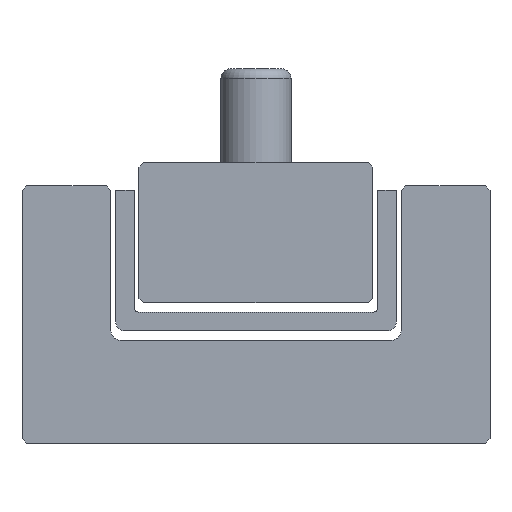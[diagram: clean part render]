
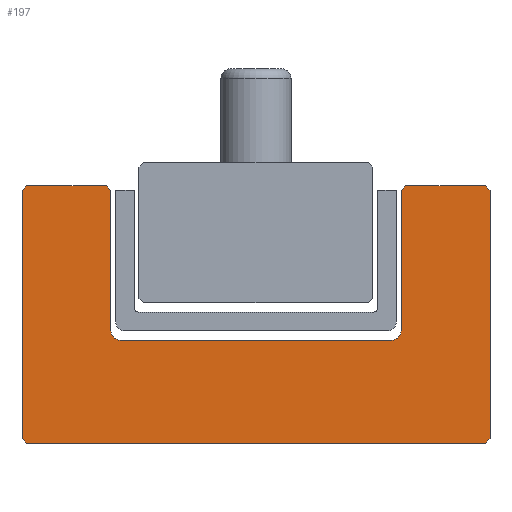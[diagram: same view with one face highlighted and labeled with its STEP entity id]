
A CAD part, front view. The second image highlights one B-rep face of the part: STEP entity #197.
In plain terms, the highlighted planar face has unit normal (0, -1, 0).
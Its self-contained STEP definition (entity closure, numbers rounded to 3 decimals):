
#197=ADVANCED_FACE('',(#362),#304,.T.);
#304=PLANE('',#2167);
#362=FACE_OUTER_BOUND('',#488,.T.);
#488=EDGE_LOOP('',(#878,#879,#880,#881,#882,#883,#884,#885,#886,#887,#888,
#889,#890,#891,#892,#893));
#642=CIRCLE('',#2165,0.2);
#643=CIRCLE('',#2166,0.2);
#878=ORIENTED_EDGE('',*,*,#1588,.T.);
#879=ORIENTED_EDGE('',*,*,#1586,.T.);
#880=ORIENTED_EDGE('',*,*,#1584,.T.);
#881=ORIENTED_EDGE('',*,*,#1582,.T.);
#882=ORIENTED_EDGE('',*,*,#1580,.T.);
#883=ORIENTED_EDGE('',*,*,#1578,.T.);
#884=ORIENTED_EDGE('',*,*,#1576,.T.);
#885=ORIENTED_EDGE('',*,*,#1543,.T.);
#886=ORIENTED_EDGE('',*,*,#1589,.T.);
#887=ORIENTED_EDGE('',*,*,#1590,.T.);
#888=ORIENTED_EDGE('',*,*,#1591,.T.);
#889=ORIENTED_EDGE('',*,*,#1592,.T.);
#890=ORIENTED_EDGE('',*,*,#1593,.T.);
#891=ORIENTED_EDGE('',*,*,#1594,.T.);
#892=ORIENTED_EDGE('',*,*,#1595,.T.);
#893=ORIENTED_EDGE('',*,*,#1516,.T.);
#1330=VERTEX_POINT('',#3058);
#1331=VERTEX_POINT('',#3059);
#1350=VERTEX_POINT('',#3109);
#1351=VERTEX_POINT('',#3111);
#1370=VERTEX_POINT('',#3178);
#1371=VERTEX_POINT('',#3182);
#1372=VERTEX_POINT('',#3186);
#1373=VERTEX_POINT('',#3190);
#1374=VERTEX_POINT('',#3194);
#1375=VERTEX_POINT('',#3198);
#1376=VERTEX_POINT('',#3203);
#1377=VERTEX_POINT('',#3205);
#1378=VERTEX_POINT('',#3207);
#1379=VERTEX_POINT('',#3209);
#1380=VERTEX_POINT('',#3211);
#1381=VERTEX_POINT('',#3213);
#1516=EDGE_CURVE('',#1330,#1331,#1802,.T.);
#1543=EDGE_CURVE('',#1351,#1350,#1810,.T.);
#1576=EDGE_CURVE('',#1370,#1351,#1824,.T.);
#1578=EDGE_CURVE('',#1371,#1370,#1826,.T.);
#1580=EDGE_CURVE('',#1372,#1371,#1828,.T.);
#1582=EDGE_CURVE('',#1373,#1372,#1830,.T.);
#1584=EDGE_CURVE('',#1374,#1373,#1832,.T.);
#1586=EDGE_CURVE('',#1375,#1374,#1834,.T.);
#1588=EDGE_CURVE('',#1331,#1375,#642,.T.);
#1589=EDGE_CURVE('',#1350,#1376,#1836,.T.);
#1590=EDGE_CURVE('',#1376,#1377,#1837,.T.);
#1591=EDGE_CURVE('',#1377,#1378,#1838,.T.);
#1592=EDGE_CURVE('',#1378,#1379,#1839,.T.);
#1593=EDGE_CURVE('',#1379,#1380,#1840,.T.);
#1594=EDGE_CURVE('',#1380,#1381,#1841,.T.);
#1595=EDGE_CURVE('',#1381,#1330,#643,.T.);
#1802=LINE('',#3057,#1958);
#1810=LINE('',#3110,#1966);
#1824=LINE('',#3177,#1980);
#1826=LINE('',#3181,#1982);
#1828=LINE('',#3185,#1984);
#1830=LINE('',#3189,#1986);
#1832=LINE('',#3193,#1988);
#1834=LINE('',#3197,#1990);
#1836=LINE('',#3202,#1992);
#1837=LINE('',#3204,#1993);
#1838=LINE('',#3206,#1994);
#1839=LINE('',#3208,#1995);
#1840=LINE('',#3210,#1996);
#1841=LINE('',#3212,#1997);
#1958=VECTOR('',#2378,1.);
#1966=VECTOR('',#2434,1.);
#1980=VECTOR('',#2516,1.);
#1982=VECTOR('',#2520,1.);
#1984=VECTOR('',#2524,1.);
#1986=VECTOR('',#2528,1.);
#1988=VECTOR('',#2532,1.);
#1990=VECTOR('',#2536,1.);
#1992=VECTOR('',#2542,1.);
#1993=VECTOR('',#2543,1.);
#1994=VECTOR('',#2544,1.);
#1995=VECTOR('',#2545,1.);
#1996=VECTOR('',#2546,1.);
#1997=VECTOR('',#2547,1.);
#2165=AXIS2_PLACEMENT_3D('',#3201,#2540,#2541);
#2166=AXIS2_PLACEMENT_3D('',#3214,#2548,#2549);
#2167=AXIS2_PLACEMENT_3D('',#3215,#2550,#2551);
#2378=DIRECTION('',(-1.,0.,0.));
#2434=DIRECTION('',(1.,0.,0.));
#2516=DIRECTION('',(0.707,0.,-0.707));
#2520=DIRECTION('',(0.,0.,-1.));
#2524=DIRECTION('',(-0.707,0.,-0.707));
#2528=DIRECTION('',(-1.,0.,0.));
#2532=DIRECTION('',(-0.707,0.,0.707));
#2536=DIRECTION('',(0.,0.,1.));
#2540=DIRECTION('',(0.,1.,0.));
#2541=DIRECTION('',(0.,0.,-1.));
#2542=DIRECTION('',(0.707,0.,0.707));
#2543=DIRECTION('',(0.,0.,1.));
#2544=DIRECTION('',(-0.707,0.,0.707));
#2545=DIRECTION('',(-1.,0.,0.));
#2546=DIRECTION('',(-0.707,0.,-0.707));
#2547=DIRECTION('',(0.,0.,-1.));
#2548=DIRECTION('',(0.,1.,0.));
#2549=DIRECTION('',(1.,0.,0.));
#2550=DIRECTION('',(0.,-1.,0.));
#2551=DIRECTION('',(-1.,0.,0.));
#3057=CARTESIAN_POINT('',(2.9,-14.25,16.45));
#3058=CARTESIAN_POINT('',(2.9,-14.25,16.45));
#3059=CARTESIAN_POINT('',(-2.9,-14.25,16.45));
#3109=CARTESIAN_POINT('',(4.9,-14.25,14.25));
#3110=CARTESIAN_POINT('',(-4.9,-14.25,14.25));
#3111=CARTESIAN_POINT('',(-4.9,-14.25,14.25));
#3177=CARTESIAN_POINT('',(-5.,-14.25,14.35));
#3178=CARTESIAN_POINT('',(-5.,-14.25,14.35));
#3181=CARTESIAN_POINT('',(-5.,-14.25,19.65));
#3182=CARTESIAN_POINT('',(-5.,-14.25,19.65));
#3185=CARTESIAN_POINT('',(-4.9,-14.25,19.75));
#3186=CARTESIAN_POINT('',(-4.9,-14.25,19.75));
#3189=CARTESIAN_POINT('',(-3.2,-14.25,19.75));
#3190=CARTESIAN_POINT('',(-3.2,-14.25,19.75));
#3193=CARTESIAN_POINT('',(-3.1,-14.25,19.65));
#3194=CARTESIAN_POINT('',(-3.1,-14.25,19.65));
#3197=CARTESIAN_POINT('',(-3.1,-14.25,19.138));
#3198=CARTESIAN_POINT('',(-3.1,-14.25,16.65));
#3201=CARTESIAN_POINT('',(-2.9,-14.25,16.65));
#3202=CARTESIAN_POINT('',(4.9,-14.25,14.25));
#3203=CARTESIAN_POINT('',(5.,-14.25,14.35));
#3204=CARTESIAN_POINT('',(5.,-14.25,14.35));
#3205=CARTESIAN_POINT('',(5.,-14.25,19.65));
#3206=CARTESIAN_POINT('',(5.,-14.25,19.65));
#3207=CARTESIAN_POINT('',(4.9,-14.25,19.75));
#3208=CARTESIAN_POINT('',(4.9,-14.25,19.75));
#3209=CARTESIAN_POINT('',(3.2,-14.25,19.75));
#3210=CARTESIAN_POINT('',(3.2,-14.25,19.75));
#3211=CARTESIAN_POINT('',(3.1,-14.25,19.65));
#3212=CARTESIAN_POINT('',(3.1,-14.25,17.762));
#3213=CARTESIAN_POINT('',(3.1,-14.25,16.65));
#3214=CARTESIAN_POINT('',(2.9,-14.25,16.65));
#3215=CARTESIAN_POINT('',(0.,-14.25,14.25));
